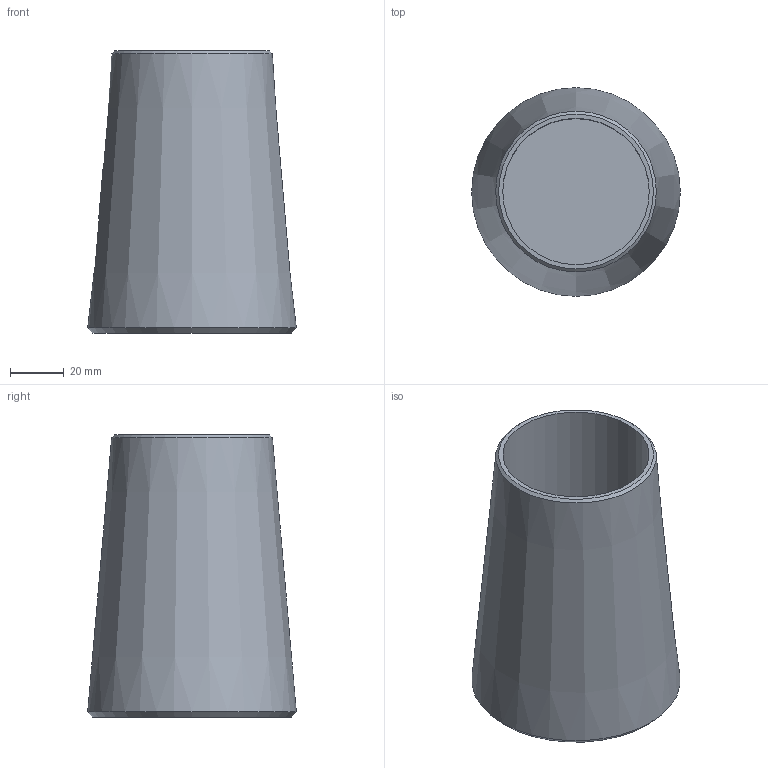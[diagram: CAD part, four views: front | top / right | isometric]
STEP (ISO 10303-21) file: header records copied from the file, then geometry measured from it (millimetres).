
FILE_DESCRIPTION(/* description */ (''),/* implementation_level */ '2;1');
FILE_NAME(/* name */ 'C:\Vault_WS\Designs\SB\01-PX\Verzinkt\ZSS\520 - Kontermutter\520-052-KMU.stp',/* time_stamp */ '2020-06-18T12:33:50+02:00',/* author */ ('schwarz'),/* organization */ (''),/* preprocessor_version */ 'ST-DEVELOPER v16.1',/* originating_system */ 'Autodesk Inventor 2016',/* authorisation */ '');
FILE_SCHEMA (('AUTOMOTIVE_DESIGN { 1 0 10303 214 3 1 1 }'));
Length unit declared in the file: millimetre
Products named in the file (1): Kontermutter 520 052 Kunde
Bounding box: 77.65 x 77.65 x 105 mm (x, y, z)
Volume: 207961.8 mm3; surface area: 43460.4 mm2
Topology: 1 solids, 1 shells, 7 faces, 10 edges, 6 vertices
Faces by surface type: cone 3, plane 3, cylinder 1
Full cylindrical faces by diameter (mm): 54.5 x1
Entity records: 158 total; most frequent: DIRECTION 28, CARTESIAN_POINT 20, AXIS2_PLACEMENT_3D 14, EDGE_LOOP 12, ORIENTED_EDGE 12, FACE_OUTER_BOUND 7, ADVANCED_FACE 7, CIRCLE 6
